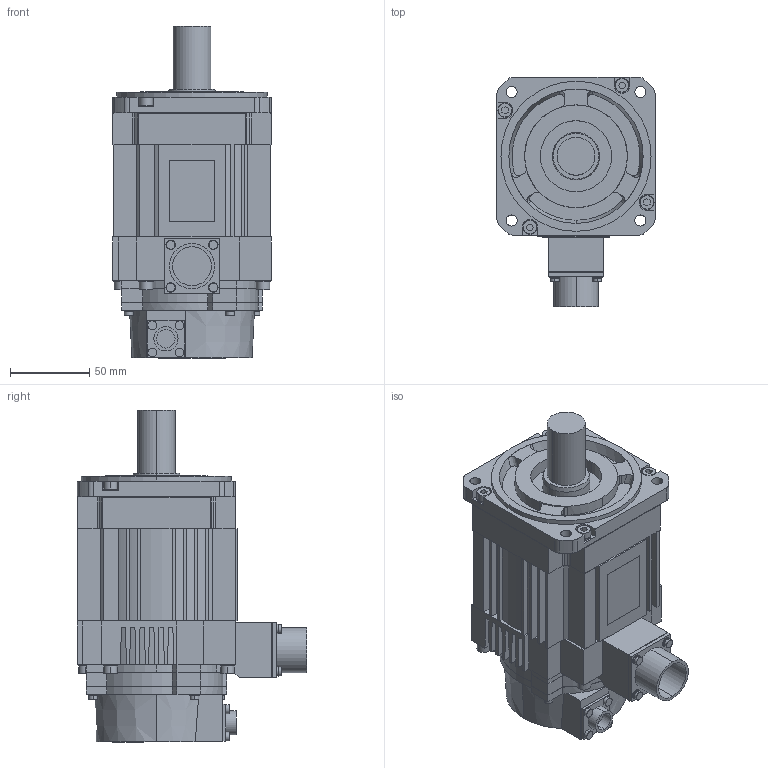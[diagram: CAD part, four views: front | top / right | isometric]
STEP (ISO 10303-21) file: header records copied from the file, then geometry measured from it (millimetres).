
FILE_DESCRIPTION (( 'STEP AP203' ), '1' );
FILE_NAME ('sgm7a_15a6a21.STEP', '2016-11-12T04:45:35', ( '匠エンジニアリング山之内' ), ( 'TAKUMI-Engniaring' ), 'SwSTEP 2.0', 'SolidWorks 2006303', '' );
FILE_SCHEMA (( 'CONFIG_CONTROL_DESIGN' ));
Length unit declared in the file: millimetre
Products named in the file (1): sgm7a_15a6a21
Bounding box: 100 x 145 x 210.1 mm (x, y, z)
Volume: 1311544.2 mm3; surface area: 123558 mm2
Topology: 1 solids, 1 shells, 660 faces, 1725 edges, 1138 vertices
Faces by surface type: plane 441, cylinder 188, cone 25, bspline 6
Entity records: 20601 total; most frequent: CARTESIAN_POINT 3947, ORIENTED_EDGE 3450, DIRECTION 3425, EDGE_CURVE 1725, VECTOR 1211, LINE 1211, VERTEX_POINT 1138, AXIS2_PLACEMENT_3D 1107
